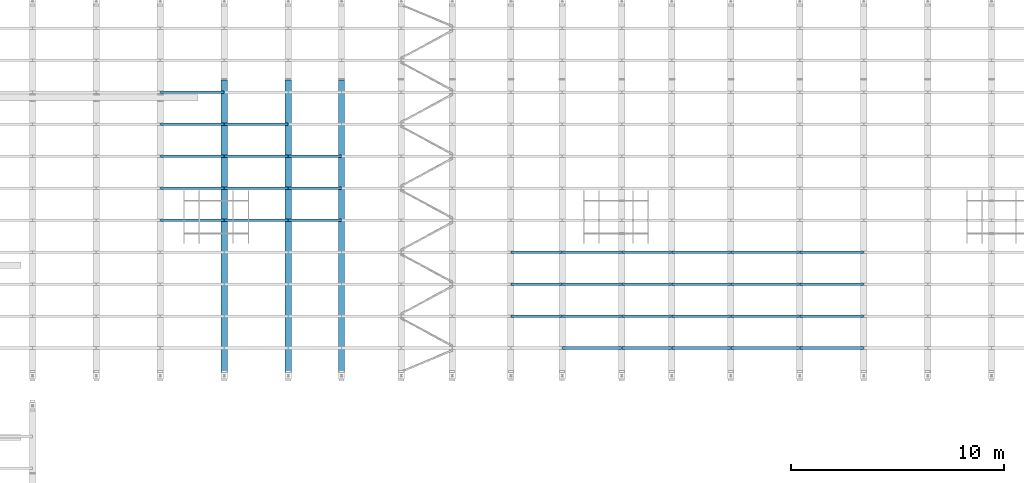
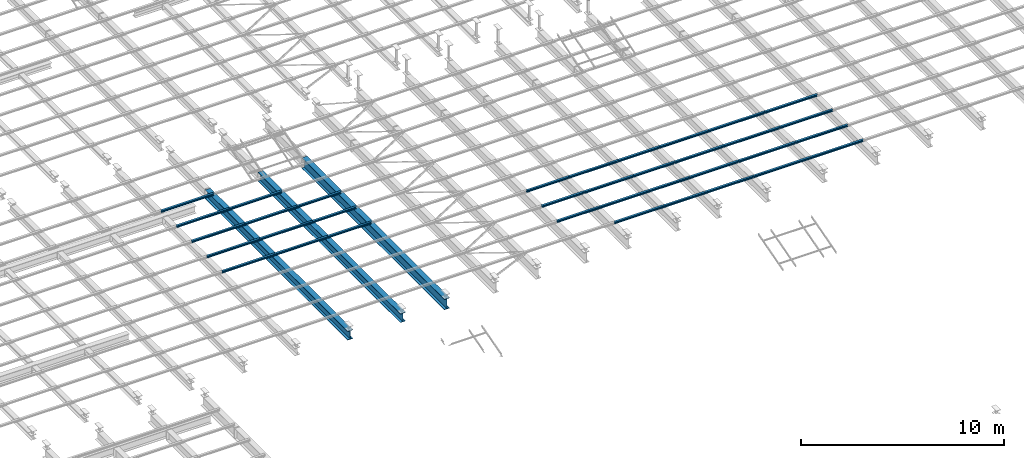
# One storey, part 71 of 139: 38 beams.
"""IFC2X3 building model written with IfcOpenShell, lengths in metres."""

from ifc_helpers import new_model, entity, si_unit, converted_unit, derived_unit, frame, origin, place, context, subcontext, project, spatial, polyline, outline, extrude, material, element, save


model = new_model("IFC2X3")

# Units and contexts
model_context = context("Model", 3, precision=1e-05, world=origin())
body_context = subcontext(model_context, "Body", "Model", "MODEL_VIEW")
ifc_project = project(units=[si_unit("LENGTHUNIT", "METRE"), si_unit("AREAUNIT", "SQUARE_METRE"), si_unit("VOLUMEUNIT", "CUBIC_METRE"), si_unit("MASSUNIT", "GRAM", prefix="KILO"), converted_unit("PLANEANGLEUNIT", "DEGREE", entity("IfcPlaneAngleMeasure", 0.0174532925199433), si_unit("PLANEANGLEUNIT", "RADIAN"), dimensions=[0, 0, 0, 0, 0, 0, 0]), derived_unit("THERMALTRANSMITTANCEUNIT", [(si_unit("POWERUNIT", "WATT"), 1), (si_unit("THERMODYNAMICTEMPERATUREUNIT", "KELVIN"), -1), (si_unit("LENGTHUNIT", "METRE"), -2)]), derived_unit("VOLUMETRICFLOWRATEUNIT", [(si_unit("LENGTHUNIT", "METRE"), 3), (converted_unit("TIMEUNIT", "hour", entity("IfcTimeMeasure", 3600.0), si_unit("TIMEUNIT", "SECOND"), dimensions=[0, 0, 1, 0, 0, 0, 0]), -1), (si_unit("LENGTHUNIT", "METRE"), -1)])], contexts=[model_context])

# Site, building, storey
site_placement = place(None, origin())
site = spatial("IfcSite", under=ifc_project, at=site_placement, Name="TWP_Speiseverteilzentrum SBW VZ II", CompositionType="ELEMENT")
building_placement = place(site_placement, origin())
building = spatial("IfcBuilding", under=site, at=building_placement, Name="Speiseverteilzentrum SBW VZ II", CompositionType="ELEMENT")
storey_placement = place(building_placement, frame((0.0, 0.0, 7.1307)))
storey = spatial("IfcBuildingStorey", under=building, at=storey_placement, Name="Wartung_FFB", CompositionType="ELEMENT", Elevation=7.1307)

# Beams
ifc_material_1 = material(Name="S235")
beam_1_placement = place(storey_placement, frame((81.5500000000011, 66.1852526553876, -0.51), z_axis=(0.0, 0.0, 1.0), x_axis=(-1.0, 0.0, 0.0)))
element("IfcBeam", 1, at=beam_1_placement, inside=storey, material=ifc_material_1, Name="Stahlträger", context=body_context, shape_type="SweptSolid", body=[
    extrude(outline(polyline([(-0.15, 0.32), (-0.15, 0.294), (-0.00675000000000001, 0.294), (-0.00675000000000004, -0.294), (-0.15, -0.294), (-0.15, -0.32), (0.15, -0.32), (0.15, -0.294), (0.00674999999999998, -0.294), (0.00675000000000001, 0.294), (0.15, 0.294), (0.15, 0.32), (-0.15, 0.32)])), frame((0.0, 0.0, 0.0), z_axis=(0.0, 1.0, 0.0), x_axis=(-1.0, 0.0, 0.0)), (0.0, 0.0, 1.0), 14.0352526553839),
])
ifc_material_2 = material(Name="S235")
beam_2_placement = place(storey_placement, frame((76.0500000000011, 66.1852526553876, -0.46), z_axis=(0.0, 0.0, 1.0), x_axis=(-1.0, 0.0, 0.0)))
element("IfcBeam", 2, at=beam_2_placement, inside=storey, material=ifc_material_2, Name="Stahlträger", context=body_context, shape_type="SweptSolid", body=[
    extrude(outline(polyline([(-0.15, 0.27), (-0.15, 0.246), (-0.0062499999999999, 0.246), (-0.00624999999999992, -0.246), (-0.15, -0.246), (-0.15, -0.27), (0.15, -0.27), (0.15, -0.246), (0.00625000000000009, -0.246), (0.00625000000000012, 0.246), (0.15, 0.246), (0.15, 0.27), (-0.15, 0.27)])), frame((0.0, 0.0, 0.0), z_axis=(0.0, 1.0, 0.0), x_axis=(-1.0, 0.0, 0.0)), (0.0, 0.0, 1.0), 14.0352526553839),
])
ifc_material_3 = material(Name="S235")
beam_3_placement = place(storey_placement, frame((79.0500000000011, 66.1852526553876, -0.46), z_axis=(0.0, 0.0, 1.0), x_axis=(-1.0, 0.0, 0.0)))
element("IfcBeam", 3, at=beam_3_placement, inside=storey, material=ifc_material_3, Name="Stahlträger", context=body_context, shape_type="SweptSolid", body=[
    extrude(outline(polyline([(-0.15, 0.27), (-0.15, 0.246), (-0.0062499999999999, 0.246), (-0.00624999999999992, -0.246), (-0.15, -0.246), (-0.15, -0.27), (0.15, -0.27), (0.15, -0.246), (0.00625000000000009, -0.246), (0.00625000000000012, 0.246), (0.15, 0.246), (0.15, 0.27), (-0.15, 0.27)])), frame((0.0, 0.0, 0.0), z_axis=(0.0, 1.0, 0.0), x_axis=(-1.0, 0.0, 0.0)), (0.0, 0.0, 1.0), 14.0352526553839),
])
ifc_material_4 = material(Name="S235")
beam_4_placement = place(storey_placement, frame((73.0600000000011, 65.6011263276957, -0.133), z_axis=(0.0, 0.0, 1.0), x_axis=(0.0, -1.0, 0.0)))
element("IfcBeam", 4, at=beam_4_placement, inside=storey, material=ifc_material_4, Name="Nebenträger", context=body_context, shape_type="SweptSolid", body=[
    extrude(outline(polyline([(-0.06, 0.0570000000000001), (-0.06, 0.0490000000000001), (-0.00249999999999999, 0.0490000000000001), (-0.0025, -0.0489999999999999), (-0.06, -0.0489999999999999), (-0.06, -0.0569999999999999), (0.06, -0.0569999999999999), (0.06, -0.0489999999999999), (0.0025, -0.0489999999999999), (0.00250000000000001, 0.0490000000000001), (0.06, 0.0490000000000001), (0.06, 0.0570000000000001), (-0.06, 0.0570000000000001)])), frame((0.0, 0.0, 0.0), z_axis=(0.0, 1.0, 0.0), x_axis=(-1.0, 0.0, 0.0)), (0.0, 0.0, 1.0), 2.98),
])
ifc_material_5 = material(Name="S235")
beam_5_placement = place(storey_placement, frame((73.0600000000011, 64.1011263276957, -0.133), z_axis=(0.0, 0.0, 1.0), x_axis=(0.0, -1.0, 0.0)))
element("IfcBeam", 5, at=beam_5_placement, inside=storey, material=ifc_material_5, Name="Nebenträger", context=body_context, shape_type="SweptSolid", body=[
    extrude(outline(polyline([(-0.06, 0.0570000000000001), (-0.06, 0.0490000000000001), (-0.00249999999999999, 0.0490000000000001), (-0.0025, -0.0489999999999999), (-0.06, -0.0489999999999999), (-0.06, -0.0569999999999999), (0.06, -0.0569999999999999), (0.06, -0.0489999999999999), (0.0025, -0.0489999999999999), (0.00250000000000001, 0.0490000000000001), (0.06, 0.0490000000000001), (0.06, 0.0570000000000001), (-0.06, 0.0570000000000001)])), frame((0.0, 0.0, 0.0), z_axis=(0.0, 1.0, 0.0), x_axis=(-1.0, 0.0, 0.0)), (0.0, 0.0, 1.0), 2.98),
])
ifc_material_6 = material(Name="S235")
beam_6_placement = place(storey_placement, frame((76.0600000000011, 64.1011263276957, -0.133), z_axis=(0.0, 0.0, 1.0), x_axis=(0.0, -1.0, 0.0)))
element("IfcBeam", 6, at=beam_6_placement, inside=storey, material=ifc_material_6, Name="Nebenträger", context=body_context, shape_type="SweptSolid", body=[
    extrude(outline(polyline([(-0.06, 0.0570000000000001), (-0.06, 0.0490000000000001), (-0.00249999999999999, 0.0490000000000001), (-0.0025, -0.0489999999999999), (-0.06, -0.0489999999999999), (-0.06, -0.0569999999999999), (0.06, -0.0569999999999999), (0.06, -0.0489999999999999), (0.0025, -0.0489999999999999), (0.00250000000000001, 0.0490000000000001), (0.06, 0.0490000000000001), (0.06, 0.0570000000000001), (-0.06, 0.0570000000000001)])), frame((0.0, 0.0, 0.0), z_axis=(0.0, 1.0, 0.0), x_axis=(-1.0, 0.0, 0.0)), (0.0, 0.0, 1.0), 2.98),
])
ifc_material_7 = material(Name="S235")
beam_7_placement = place(storey_placement, frame((73.0600000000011, 62.6011263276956, -0.133), z_axis=(0.0, 0.0, 1.0), x_axis=(0.0, -1.0, 0.0)))
element("IfcBeam", 7, at=beam_7_placement, inside=storey, material=ifc_material_7, Name="Nebenträger", context=body_context, shape_type="SweptSolid", body=[
    extrude(outline(polyline([(-0.06, 0.0570000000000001), (-0.06, 0.0490000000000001), (-0.00249999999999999, 0.0490000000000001), (-0.0025, -0.0489999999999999), (-0.06, -0.0489999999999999), (-0.06, -0.0569999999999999), (0.06, -0.0569999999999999), (0.06, -0.0489999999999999), (0.0025, -0.0489999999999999), (0.00250000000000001, 0.0490000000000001), (0.06, 0.0490000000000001), (0.06, 0.0570000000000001), (-0.06, 0.0570000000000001)])), frame((0.0, 0.0, 0.0), z_axis=(0.0, 1.0, 0.0), x_axis=(-1.0, 0.0, 0.0)), (0.0, 0.0, 1.0), 2.98),
])
ifc_material_8 = material(Name="S235")
beam_8_placement = place(storey_placement, frame((76.0600000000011, 62.6011263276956, -0.133), z_axis=(0.0, 0.0, 1.0), x_axis=(0.0, -1.0, 0.0)))
element("IfcBeam", 8, at=beam_8_placement, inside=storey, material=ifc_material_8, Name="Nebenträger", context=body_context, shape_type="SweptSolid", body=[
    extrude(outline(polyline([(-0.06, 0.0570000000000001), (-0.06, 0.0490000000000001), (-0.00249999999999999, 0.0490000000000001), (-0.0025, -0.0489999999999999), (-0.06, -0.0489999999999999), (-0.06, -0.0569999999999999), (0.06, -0.0569999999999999), (0.06, -0.0489999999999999), (0.0025, -0.0489999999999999), (0.00250000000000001, 0.0490000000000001), (0.06, 0.0490000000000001), (0.06, 0.0570000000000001), (-0.06, 0.0570000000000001)])), frame((0.0, 0.0, 0.0), z_axis=(0.0, 1.0, 0.0), x_axis=(-1.0, 0.0, 0.0)), (0.0, 0.0, 1.0), 2.98),
])
ifc_material_9 = material(Name="S235")
beam_9_placement = place(storey_placement, frame((73.0600000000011, 61.1011263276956, -0.133), z_axis=(0.0, 0.0, 1.0), x_axis=(0.0, -1.0, 0.0)))
element("IfcBeam", 9, at=beam_9_placement, inside=storey, material=ifc_material_9, Name="Nebenträger", context=body_context, shape_type="SweptSolid", body=[
    extrude(outline(polyline([(-0.06, 0.0570000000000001), (-0.06, 0.0490000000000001), (-0.00249999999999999, 0.0490000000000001), (-0.0025, -0.0489999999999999), (-0.06, -0.0489999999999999), (-0.06, -0.0569999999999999), (0.06, -0.0569999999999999), (0.06, -0.0489999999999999), (0.0025, -0.0489999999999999), (0.00250000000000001, 0.0490000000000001), (0.06, 0.0490000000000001), (0.06, 0.0570000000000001), (-0.06, 0.0570000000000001)])), frame((0.0, 0.0, 0.0), z_axis=(0.0, 1.0, 0.0), x_axis=(-1.0, 0.0, 0.0)), (0.0, 0.0, 1.0), 2.98),
])
ifc_material_10 = material(Name="S235")
beam_10_placement = place(storey_placement, frame((76.0600000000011, 61.1011263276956, -0.133), z_axis=(0.0, 0.0, 1.0), x_axis=(0.0, -1.0, 0.0)))
element("IfcBeam", 10, at=beam_10_placement, inside=storey, material=ifc_material_10, Name="Nebenträger", context=body_context, shape_type="SweptSolid", body=[
    extrude(outline(polyline([(-0.06, 0.0570000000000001), (-0.06, 0.0490000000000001), (-0.00249999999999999, 0.0490000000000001), (-0.0025, -0.0489999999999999), (-0.06, -0.0489999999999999), (-0.06, -0.0569999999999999), (0.06, -0.0569999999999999), (0.06, -0.0489999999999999), (0.0025, -0.0489999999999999), (0.00250000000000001, 0.0490000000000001), (0.06, 0.0490000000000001), (0.06, 0.0570000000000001), (-0.06, 0.0570000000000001)])), frame((0.0, 0.0, 0.0), z_axis=(0.0, 1.0, 0.0), x_axis=(-1.0, 0.0, 0.0)), (0.0, 0.0, 1.0), 2.98),
])
ifc_material_11 = material(Name="S235")
beam_11_placement = place(storey_placement, frame((73.0600000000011, 59.6011263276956, -0.133), z_axis=(0.0, 0.0, 1.0), x_axis=(0.0, -1.0, 0.0)))
element("IfcBeam", 11, at=beam_11_placement, inside=storey, material=ifc_material_11, Name="Nebenträger", context=body_context, shape_type="SweptSolid", body=[
    extrude(outline(polyline([(-0.06, 0.0570000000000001), (-0.06, 0.0490000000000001), (-0.00249999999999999, 0.0490000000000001), (-0.0025, -0.0489999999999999), (-0.06, -0.0489999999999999), (-0.06, -0.0569999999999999), (0.06, -0.0569999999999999), (0.06, -0.0489999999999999), (0.0025, -0.0489999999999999), (0.00250000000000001, 0.0490000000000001), (0.06, 0.0490000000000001), (0.06, 0.0570000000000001), (-0.06, 0.0570000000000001)])), frame((0.0, 0.0, 0.0), z_axis=(0.0, 1.0, 0.0), x_axis=(-1.0, 0.0, 0.0)), (0.0, 0.0, 1.0), 2.98),
])
ifc_material_12 = material(Name="S235")
beam_12_placement = place(storey_placement, frame((76.0600000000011, 59.6011263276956, -0.133), z_axis=(0.0, 0.0, 1.0), x_axis=(0.0, -1.0, 0.0)))
element("IfcBeam", 12, at=beam_12_placement, inside=storey, material=ifc_material_12, Name="Nebenträger", context=body_context, shape_type="SweptSolid", body=[
    extrude(outline(polyline([(-0.06, 0.0570000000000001), (-0.06, 0.0490000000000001), (-0.00249999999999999, 0.0490000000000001), (-0.0025, -0.0489999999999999), (-0.06, -0.0489999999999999), (-0.06, -0.0569999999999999), (0.06, -0.0569999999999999), (0.06, -0.0489999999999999), (0.0025, -0.0489999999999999), (0.00250000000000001, 0.0490000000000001), (0.06, 0.0490000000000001), (0.06, 0.0570000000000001), (-0.06, 0.0570000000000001)])), frame((0.0, 0.0, 0.0), z_axis=(0.0, 1.0, 0.0), x_axis=(-1.0, 0.0, 0.0)), (0.0, 0.0, 1.0), 2.98),
])
ifc_material_13 = material(Name="S235")
beam_13_placement = place(storey_placement, frame((103.060000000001, 58.1011263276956, -0.133), z_axis=(0.0, 0.0, 1.0), x_axis=(0.0, -1.0, 0.0)))
element("IfcBeam", 13, at=beam_13_placement, inside=storey, material=ifc_material_13, Name="Nebenträger", context=body_context, shape_type="SweptSolid", body=[
    extrude(outline(polyline([(-0.06, 0.0570000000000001), (-0.06, 0.0490000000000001), (-0.00249999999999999, 0.0490000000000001), (-0.0025, -0.0489999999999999), (-0.06, -0.0489999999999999), (-0.06, -0.0569999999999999), (0.06, -0.0569999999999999), (0.06, -0.0489999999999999), (0.0025, -0.0489999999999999), (0.00250000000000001, 0.0490000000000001), (0.06, 0.0490000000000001), (0.06, 0.0570000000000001), (-0.06, 0.0570000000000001)])), frame((0.0, 0.0, 0.0), z_axis=(0.0, 1.0, 0.0), x_axis=(-1.0, 0.0, 0.0)), (0.0, 0.0, 1.0), 2.98),
])
ifc_material_14 = material(Name="S235")
beam_14_placement = place(storey_placement, frame((103.060000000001, 56.6011263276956, -0.133), z_axis=(0.0, 0.0, 1.0), x_axis=(0.0, -1.0, 0.0)))
element("IfcBeam", 14, at=beam_14_placement, inside=storey, material=ifc_material_14, Name="Nebenträger", context=body_context, shape_type="SweptSolid", body=[
    extrude(outline(polyline([(-0.06, 0.0570000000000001), (-0.06, 0.0490000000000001), (-0.00249999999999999, 0.0490000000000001), (-0.0025, -0.0489999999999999), (-0.06, -0.0489999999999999), (-0.06, -0.0569999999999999), (0.06, -0.0569999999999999), (0.06, -0.0489999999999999), (0.0025, -0.0489999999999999), (0.00250000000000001, 0.0490000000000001), (0.06, 0.0490000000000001), (0.06, 0.0570000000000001), (-0.06, 0.0570000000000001)])), frame((0.0, 0.0, 0.0), z_axis=(0.0, 1.0, 0.0), x_axis=(-1.0, 0.0, 0.0)), (0.0, 0.0, 1.0), 2.98),
])
ifc_material_15 = material(Name="S235")
beam_15_placement = place(storey_placement, frame((103.060000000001, 55.1011263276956, -0.133), z_axis=(0.0, 0.0, 1.0), x_axis=(0.0, -1.0, 0.0)))
element("IfcBeam", 15, at=beam_15_placement, inside=storey, material=ifc_material_15, Name="Nebenträger", context=body_context, shape_type="SweptSolid", body=[
    extrude(outline(polyline([(-0.06, 0.0570000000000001), (-0.06, 0.0490000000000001), (-0.00249999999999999, 0.0490000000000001), (-0.0025, -0.0489999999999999), (-0.06, -0.0489999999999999), (-0.06, -0.0569999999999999), (0.06, -0.0569999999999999), (0.06, -0.0489999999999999), (0.0025, -0.0489999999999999), (0.00250000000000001, 0.0490000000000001), (0.06, 0.0490000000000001), (0.06, 0.0570000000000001), (-0.06, 0.0570000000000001)])), frame((0.0, 0.0, 0.0), z_axis=(0.0, 1.0, 0.0), x_axis=(-1.0, 0.0, 0.0)), (0.0, 0.0, 1.0), 2.98),
])
ifc_material_16 = material(Name="S235")
beam_16_placement = place(storey_placement, frame((103.060000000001, 53.6011263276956, -0.133), z_axis=(0.0, 0.0, 1.0), x_axis=(0.0, -1.0, 0.0)))
element("IfcBeam", 16, at=beam_16_placement, inside=storey, material=ifc_material_16, Name="Nebenträger", context=body_context, shape_type="SweptSolid", body=[
    extrude(outline(polyline([(-0.06, 0.0570000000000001), (-0.06, 0.0490000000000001), (-0.00249999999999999, 0.0490000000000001), (-0.0025, -0.0489999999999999), (-0.06, -0.0489999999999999), (-0.06, -0.0569999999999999), (0.06, -0.0569999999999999), (0.06, -0.0489999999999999), (0.0025, -0.0489999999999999), (0.00250000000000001, 0.0490000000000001), (0.06, 0.0490000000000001), (0.06, 0.0570000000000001), (-0.06, 0.0570000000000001)])), frame((0.0, 0.0, 0.0), z_axis=(0.0, 1.0, 0.0), x_axis=(-1.0, 0.0, 0.0)), (0.0, 0.0, 1.0), 2.98),
])
ifc_material_17 = material(Name="S235")
beam_17_placement = place(storey_placement, frame((79.0600000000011, 62.6011263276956, -0.133), z_axis=(0.0, 0.0, 1.0), x_axis=(0.0, -1.0, 0.0)))
element("IfcBeam", 17, at=beam_17_placement, inside=storey, material=ifc_material_17, Name="Nebenträger", context=body_context, shape_type="SweptSolid", body=[
    extrude(outline(polyline([(-0.06, 0.0570000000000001), (-0.06, 0.0490000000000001), (-0.00249999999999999, 0.0490000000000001), (-0.0025, -0.0489999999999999), (-0.06, -0.0489999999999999), (-0.06, -0.0569999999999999), (0.06, -0.0569999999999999), (0.06, -0.0489999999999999), (0.0025, -0.0489999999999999), (0.00250000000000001, 0.0490000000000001), (0.06, 0.0490000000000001), (0.06, 0.0570000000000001), (-0.06, 0.0570000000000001)])), frame((0.0, 0.0, 0.0), z_axis=(0.0, 1.0, 0.0), x_axis=(-1.0, 0.0, 0.0)), (0.0, 0.0, 1.0), 2.48),
])
ifc_material_18 = material(Name="S235")
beam_18_placement = place(storey_placement, frame((79.0600000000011, 61.1011263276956, -0.133), z_axis=(0.0, 0.0, 1.0), x_axis=(0.0, -1.0, 0.0)))
element("IfcBeam", 18, at=beam_18_placement, inside=storey, material=ifc_material_18, Name="Nebenträger", context=body_context, shape_type="SweptSolid", body=[
    extrude(outline(polyline([(-0.06, 0.0570000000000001), (-0.06, 0.0490000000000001), (-0.00249999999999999, 0.0490000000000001), (-0.0025, -0.0489999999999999), (-0.06, -0.0489999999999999), (-0.06, -0.0569999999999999), (0.06, -0.0569999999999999), (0.06, -0.0489999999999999), (0.0025, -0.0489999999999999), (0.00250000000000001, 0.0490000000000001), (0.06, 0.0490000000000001), (0.06, 0.0570000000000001), (-0.06, 0.0570000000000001)])), frame((0.0, 0.0, 0.0), z_axis=(0.0, 1.0, 0.0), x_axis=(-1.0, 0.0, 0.0)), (0.0, 0.0, 1.0), 2.48),
])
ifc_material_19 = material(Name="S235")
beam_19_placement = place(storey_placement, frame((79.0600000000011, 59.6011263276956, -0.133), z_axis=(0.0, 0.0, 1.0), x_axis=(0.0, -1.0, 0.0)))
element("IfcBeam", 19, at=beam_19_placement, inside=storey, material=ifc_material_19, Name="Nebenträger", context=body_context, shape_type="SweptSolid", body=[
    extrude(outline(polyline([(-0.06, 0.0570000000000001), (-0.06, 0.0490000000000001), (-0.00249999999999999, 0.0490000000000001), (-0.0025, -0.0489999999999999), (-0.06, -0.0489999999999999), (-0.06, -0.0569999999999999), (0.06, -0.0569999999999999), (0.06, -0.0489999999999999), (0.0025, -0.0489999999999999), (0.00250000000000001, 0.0490000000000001), (0.06, 0.0490000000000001), (0.06, 0.0570000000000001), (-0.06, 0.0570000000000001)])), frame((0.0, 0.0, 0.0), z_axis=(0.0, 1.0, 0.0), x_axis=(-1.0, 0.0, 0.0)), (0.0, 0.0, 1.0), 2.48),
])
ifc_material_20 = material(Name="S235")
beam_20_placement = place(storey_placement, frame((89.5100000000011, 58.1011263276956, -0.133), z_axis=(0.0, 0.0, 1.0), x_axis=(0.0, -1.0, 0.0)))
element("IfcBeam", 20, at=beam_20_placement, inside=storey, material=ifc_material_20, Name="Nebenträger", context=body_context, shape_type="SweptSolid", body=[
    extrude(outline(polyline([(-0.06, 0.0570000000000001), (-0.06, 0.0490000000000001), (-0.00249999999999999, 0.0490000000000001), (-0.0025, -0.0489999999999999), (-0.06, -0.0489999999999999), (-0.06, -0.0569999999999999), (0.06, -0.0569999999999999), (0.06, -0.0489999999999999), (0.0025, -0.0489999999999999), (0.00250000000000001, 0.0490000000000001), (0.06, 0.0490000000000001), (0.06, 0.0570000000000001), (-0.06, 0.0570000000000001)])), frame((0.0, 0.0, 0.0), z_axis=(0.0, 1.0, 0.0), x_axis=(-1.0, 0.0, 0.0)), (0.0, 0.0, 1.0), 2.38),
])
ifc_material_21 = material(Name="S235")
beam_21_placement = place(storey_placement, frame((89.5100000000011, 56.6011263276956, -0.133), z_axis=(0.0, 0.0, 1.0), x_axis=(0.0, -1.0, 0.0)))
element("IfcBeam", 21, at=beam_21_placement, inside=storey, material=ifc_material_21, Name="Nebenträger", context=body_context, shape_type="SweptSolid", body=[
    extrude(outline(polyline([(-0.06, 0.0570000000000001), (-0.06, 0.0490000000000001), (-0.00249999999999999, 0.0490000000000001), (-0.0025, -0.0489999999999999), (-0.06, -0.0489999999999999), (-0.06, -0.0569999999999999), (0.06, -0.0569999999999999), (0.06, -0.0489999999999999), (0.0025, -0.0489999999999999), (0.00250000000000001, 0.0490000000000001), (0.06, 0.0490000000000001), (0.06, 0.0570000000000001), (-0.06, 0.0570000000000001)])), frame((0.0, 0.0, 0.0), z_axis=(0.0, 1.0, 0.0), x_axis=(-1.0, 0.0, 0.0)), (0.0, 0.0, 1.0), 2.38),
])
ifc_material_22 = material(Name="S235")
beam_22_placement = place(storey_placement, frame((89.5100000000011, 55.1011263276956, -0.133), z_axis=(0.0, 0.0, 1.0), x_axis=(0.0, -1.0, 0.0)))
element("IfcBeam", 22, at=beam_22_placement, inside=storey, material=ifc_material_22, Name="Nebenträger", context=body_context, shape_type="SweptSolid", body=[
    extrude(outline(polyline([(-0.06, 0.0570000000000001), (-0.06, 0.0490000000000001), (-0.00249999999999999, 0.0490000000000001), (-0.0025, -0.0489999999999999), (-0.06, -0.0489999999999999), (-0.06, -0.0569999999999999), (0.06, -0.0569999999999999), (0.06, -0.0489999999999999), (0.0025, -0.0489999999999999), (0.00250000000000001, 0.0490000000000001), (0.06, 0.0490000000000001), (0.06, 0.0570000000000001), (-0.06, 0.0570000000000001)])), frame((0.0, 0.0, 0.0), z_axis=(0.0, 1.0, 0.0), x_axis=(-1.0, 0.0, 0.0)), (0.0, 0.0, 1.0), 2.38),
])
ifc_material_23 = material(Name="S235")
beam_23_placement = place(storey_placement, frame((94.7100000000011, 58.1011263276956, -0.133), z_axis=(0.0, 0.0, 1.0), x_axis=(0.0, -1.0, 0.0)))
element("IfcBeam", 23, at=beam_23_placement, inside=storey, material=ifc_material_23, Name="Nebenträger", context=body_context, shape_type="SweptSolid", body=[
    extrude(outline(polyline([(-0.06, 0.0570000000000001), (-0.06, 0.0490000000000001), (-0.00249999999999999, 0.0490000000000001), (-0.0025, -0.0489999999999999), (-0.06, -0.0489999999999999), (-0.06, -0.0569999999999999), (0.06, -0.0569999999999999), (0.06, -0.0489999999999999), (0.0025, -0.0489999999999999), (0.00250000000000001, 0.0490000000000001), (0.06, 0.0490000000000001), (0.06, 0.0570000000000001), (-0.06, 0.0570000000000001)])), frame((0.0, 0.0, 0.0), z_axis=(0.0, 1.0, 0.0), x_axis=(-1.0, 0.0, 0.0)), (0.0, 0.0, 1.0), 2.33),
])
ifc_material_24 = material(Name="S235")
beam_24_placement = place(storey_placement, frame((94.7100000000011, 56.6011263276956, -0.133), z_axis=(0.0, 0.0, 1.0), x_axis=(0.0, -1.0, 0.0)))
element("IfcBeam", 24, at=beam_24_placement, inside=storey, material=ifc_material_24, Name="Nebenträger", context=body_context, shape_type="SweptSolid", body=[
    extrude(outline(polyline([(-0.06, 0.0570000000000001), (-0.06, 0.0490000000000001), (-0.00249999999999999, 0.0490000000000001), (-0.0025, -0.0489999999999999), (-0.06, -0.0489999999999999), (-0.06, -0.0569999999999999), (0.06, -0.0569999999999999), (0.06, -0.0489999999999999), (0.0025, -0.0489999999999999), (0.00250000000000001, 0.0490000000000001), (0.06, 0.0490000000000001), (0.06, 0.0570000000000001), (-0.06, 0.0570000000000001)])), frame((0.0, 0.0, 0.0), z_axis=(0.0, 1.0, 0.0), x_axis=(-1.0, 0.0, 0.0)), (0.0, 0.0, 1.0), 2.33),
])
ifc_material_25 = material(Name="S235")
beam_25_placement = place(storey_placement, frame((94.7100000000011, 55.1011263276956, -0.133), z_axis=(0.0, 0.0, 1.0), x_axis=(0.0, -1.0, 0.0)))
element("IfcBeam", 25, at=beam_25_placement, inside=storey, material=ifc_material_25, Name="Nebenträger", context=body_context, shape_type="SweptSolid", body=[
    extrude(outline(polyline([(-0.06, 0.0570000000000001), (-0.06, 0.0490000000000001), (-0.00249999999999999, 0.0490000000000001), (-0.0025, -0.0489999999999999), (-0.06, -0.0489999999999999), (-0.06, -0.0569999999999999), (0.06, -0.0569999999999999), (0.06, -0.0489999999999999), (0.0025, -0.0489999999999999), (0.00250000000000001, 0.0490000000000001), (0.06, 0.0490000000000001), (0.06, 0.0570000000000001), (-0.06, 0.0570000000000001)])), frame((0.0, 0.0, 0.0), z_axis=(0.0, 1.0, 0.0), x_axis=(-1.0, 0.0, 0.0)), (0.0, 0.0, 1.0), 2.33),
])
ifc_material_26 = material(Name="S235")
beam_26_placement = place(storey_placement, frame((94.7100000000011, 53.6011263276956, -0.133), z_axis=(0.0, 0.0, 1.0), x_axis=(0.0, -1.0, 0.0)))
element("IfcBeam", 26, at=beam_26_placement, inside=storey, material=ifc_material_26, Name="Nebenträger", context=body_context, shape_type="SweptSolid", body=[
    extrude(outline(polyline([(-0.06, 0.0570000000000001), (-0.06, 0.0490000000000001), (-0.00249999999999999, 0.0490000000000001), (-0.0025, -0.0489999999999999), (-0.06, -0.0489999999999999), (-0.06, -0.0569999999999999), (0.06, -0.0569999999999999), (0.06, -0.0489999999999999), (0.0025, -0.0489999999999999), (0.00250000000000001, 0.0490000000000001), (0.06, 0.0490000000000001), (0.06, 0.0570000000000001), (-0.06, 0.0570000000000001)])), frame((0.0, 0.0, 0.0), z_axis=(0.0, 1.0, 0.0), x_axis=(-1.0, 0.0, 0.0)), (0.0, 0.0, 1.0), 2.33),
])
ifc_material_27 = material(Name="S235")
beam_27_placement = place(storey_placement, frame((91.9100000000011, 58.1011263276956, -0.133), z_axis=(0.0, 0.0, 1.0), x_axis=(0.0, -1.0, 0.0)))
element("IfcBeam", 27, at=beam_27_placement, inside=storey, material=ifc_material_27, Name="Nebenträger", context=body_context, shape_type="SweptSolid", body=[
    extrude(outline(polyline([(-0.06, 0.0570000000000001), (-0.06, 0.0490000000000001), (-0.00249999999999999, 0.0490000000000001), (-0.0025, -0.0489999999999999), (-0.06, -0.0489999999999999), (-0.06, -0.0569999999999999), (0.06, -0.0569999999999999), (0.06, -0.0489999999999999), (0.0025, -0.0489999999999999), (0.00250000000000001, 0.0490000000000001), (0.06, 0.0490000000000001), (0.06, 0.0570000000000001), (-0.06, 0.0570000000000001)])), frame((0.0, 0.0, 0.0), z_axis=(0.0, 1.0, 0.0), x_axis=(-1.0, 0.0, 0.0)), (0.0, 0.0, 1.0), 2.78),
])
ifc_material_28 = material(Name="S235")
beam_28_placement = place(storey_placement, frame((91.9100000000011, 56.6011263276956, -0.133), z_axis=(0.0, 0.0, 1.0), x_axis=(0.0, -1.0, 0.0)))
element("IfcBeam", 28, at=beam_28_placement, inside=storey, material=ifc_material_28, Name="Nebenträger", context=body_context, shape_type="SweptSolid", body=[
    extrude(outline(polyline([(-0.06, 0.0570000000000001), (-0.06, 0.0490000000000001), (-0.00249999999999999, 0.0490000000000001), (-0.0025, -0.0489999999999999), (-0.06, -0.0489999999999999), (-0.06, -0.0569999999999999), (0.06, -0.0569999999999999), (0.06, -0.0489999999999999), (0.0025, -0.0489999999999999), (0.00250000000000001, 0.0490000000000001), (0.06, 0.0490000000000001), (0.06, 0.0570000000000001), (-0.06, 0.0570000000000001)])), frame((0.0, 0.0, 0.0), z_axis=(0.0, 1.0, 0.0), x_axis=(-1.0, 0.0, 0.0)), (0.0, 0.0, 1.0), 2.78),
])
ifc_material_29 = material(Name="S235")
beam_29_placement = place(storey_placement, frame((91.9100000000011, 55.1011263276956, -0.133), z_axis=(0.0, 0.0, 1.0), x_axis=(0.0, -1.0, 0.0)))
element("IfcBeam", 29, at=beam_29_placement, inside=storey, material=ifc_material_29, Name="Nebenträger", context=body_context, shape_type="SweptSolid", body=[
    extrude(outline(polyline([(-0.06, 0.0570000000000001), (-0.06, 0.0490000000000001), (-0.00249999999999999, 0.0490000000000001), (-0.0025, -0.0489999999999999), (-0.06, -0.0489999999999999), (-0.06, -0.0569999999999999), (0.06, -0.0569999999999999), (0.06, -0.0489999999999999), (0.0025, -0.0489999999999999), (0.00250000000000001, 0.0490000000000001), (0.06, 0.0490000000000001), (0.06, 0.0570000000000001), (-0.06, 0.0570000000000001)])), frame((0.0, 0.0, 0.0), z_axis=(0.0, 1.0, 0.0), x_axis=(-1.0, 0.0, 0.0)), (0.0, 0.0, 1.0), 2.78),
])
ifc_material_30 = material(Name="S235")
beam_30_placement = place(storey_placement, frame((91.9100000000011, 53.6011263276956, -0.133), z_axis=(0.0, 0.0, 1.0), x_axis=(0.0, -1.0, 0.0)))
element("IfcBeam", 30, at=beam_30_placement, inside=storey, material=ifc_material_30, Name="Nebenträger", context=body_context, shape_type="SweptSolid", body=[
    extrude(outline(polyline([(-0.06, 0.0570000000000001), (-0.06, 0.0490000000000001), (-0.00249999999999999, 0.0490000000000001), (-0.0025, -0.0489999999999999), (-0.06, -0.0489999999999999), (-0.06, -0.0569999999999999), (0.06, -0.0569999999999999), (0.06, -0.0489999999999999), (0.0025, -0.0489999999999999), (0.00250000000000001, 0.0490000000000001), (0.06, 0.0490000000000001), (0.06, 0.0570000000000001), (-0.06, 0.0570000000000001)])), frame((0.0, 0.0, 0.0), z_axis=(0.0, 1.0, 0.0), x_axis=(-1.0, 0.0, 0.0)), (0.0, 0.0, 1.0), 2.78),
])
ifc_material_31 = material(Name="S235")
beam_31_placement = place(storey_placement, frame((97.0600000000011, 58.1011263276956, -0.133), z_axis=(0.0, 0.0, 1.0), x_axis=(0.0, -1.0, 0.0)))
element("IfcBeam", 31, at=beam_31_placement, inside=storey, material=ifc_material_31, Name="Nebenträger", context=body_context, shape_type="SweptSolid", body=[
    extrude(outline(polyline([(-0.06, 0.0570000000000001), (-0.06, 0.0490000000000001), (-0.00249999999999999, 0.0490000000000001), (-0.0025, -0.0489999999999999), (-0.06, -0.0489999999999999), (-0.06, -0.0569999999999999), (0.06, -0.0569999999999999), (0.06, -0.0489999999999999), (0.0025, -0.0489999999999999), (0.00250000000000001, 0.0490000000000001), (0.06, 0.0490000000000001), (0.06, 0.0570000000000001), (-0.06, 0.0570000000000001)])), frame((0.0, 0.0, 0.0), z_axis=(0.0, 1.0, 0.0), x_axis=(-1.0, 0.0, 0.0)), (0.0, 0.0, 1.0), 2.75),
])
ifc_material_32 = material(Name="S235")
beam_32_placement = place(storey_placement, frame((99.8300000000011, 58.1011263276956, -0.133), z_axis=(0.0, 0.0, 1.0), x_axis=(0.0, -1.0, 0.0)))
element("IfcBeam", 32, at=beam_32_placement, inside=storey, material=ifc_material_32, Name="Nebenträger", context=body_context, shape_type="SweptSolid", body=[
    extrude(outline(polyline([(-0.06, 0.0570000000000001), (-0.06, 0.0490000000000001), (-0.00249999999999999, 0.0490000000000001), (-0.0025, -0.0489999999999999), (-0.06, -0.0489999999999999), (-0.06, -0.0569999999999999), (0.06, -0.0569999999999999), (0.06, -0.0489999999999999), (0.0025, -0.0489999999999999), (0.00250000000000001, 0.0490000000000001), (0.06, 0.0490000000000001), (0.06, 0.0570000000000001), (-0.06, 0.0570000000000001)])), frame((0.0, 0.0, 0.0), z_axis=(0.0, 1.0, 0.0), x_axis=(-1.0, 0.0, 0.0)), (0.0, 0.0, 1.0), 3.21),
])
ifc_material_33 = material(Name="S235")
beam_33_placement = place(storey_placement, frame((97.0600000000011, 56.6011263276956, -0.133), z_axis=(0.0, 0.0, 1.0), x_axis=(0.0, -1.0, 0.0)))
element("IfcBeam", 33, at=beam_33_placement, inside=storey, material=ifc_material_33, Name="Nebenträger", context=body_context, shape_type="SweptSolid", body=[
    extrude(outline(polyline([(-0.06, 0.0570000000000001), (-0.06, 0.0490000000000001), (-0.00249999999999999, 0.0490000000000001), (-0.0025, -0.0489999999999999), (-0.06, -0.0489999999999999), (-0.06, -0.0569999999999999), (0.06, -0.0569999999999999), (0.06, -0.0489999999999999), (0.0025, -0.0489999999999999), (0.00250000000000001, 0.0490000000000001), (0.06, 0.0490000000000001), (0.06, 0.0570000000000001), (-0.06, 0.0570000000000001)])), frame((0.0, 0.0, 0.0), z_axis=(0.0, 1.0, 0.0), x_axis=(-1.0, 0.0, 0.0)), (0.0, 0.0, 1.0), 2.75),
])
ifc_material_34 = material(Name="S235")
beam_34_placement = place(storey_placement, frame((99.8300000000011, 56.6011263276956, -0.133), z_axis=(0.0, 0.0, 1.0), x_axis=(0.0, -1.0, 0.0)))
element("IfcBeam", 34, at=beam_34_placement, inside=storey, material=ifc_material_34, Name="Nebenträger", context=body_context, shape_type="SweptSolid", body=[
    extrude(outline(polyline([(-0.06, 0.0570000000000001), (-0.06, 0.0490000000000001), (-0.00249999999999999, 0.0490000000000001), (-0.0025, -0.0489999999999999), (-0.06, -0.0489999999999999), (-0.06, -0.0569999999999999), (0.06, -0.0569999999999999), (0.06, -0.0489999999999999), (0.0025, -0.0489999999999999), (0.00250000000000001, 0.0490000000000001), (0.06, 0.0490000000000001), (0.06, 0.0570000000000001), (-0.06, 0.0570000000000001)])), frame((0.0, 0.0, 0.0), z_axis=(0.0, 1.0, 0.0), x_axis=(-1.0, 0.0, 0.0)), (0.0, 0.0, 1.0), 3.21),
])
ifc_material_35 = material(Name="S235")
beam_35_placement = place(storey_placement, frame((97.0600000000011, 55.1011263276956, -0.133), z_axis=(0.0, 0.0, 1.0), x_axis=(0.0, -1.0, 0.0)))
element("IfcBeam", 35, at=beam_35_placement, inside=storey, material=ifc_material_35, Name="Nebenträger", context=body_context, shape_type="SweptSolid", body=[
    extrude(outline(polyline([(-0.06, 0.0570000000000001), (-0.06, 0.0490000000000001), (-0.00249999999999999, 0.0490000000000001), (-0.0025, -0.0489999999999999), (-0.06, -0.0489999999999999), (-0.06, -0.0569999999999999), (0.06, -0.0569999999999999), (0.06, -0.0489999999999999), (0.0025, -0.0489999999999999), (0.00250000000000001, 0.0490000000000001), (0.06, 0.0490000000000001), (0.06, 0.0570000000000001), (-0.06, 0.0570000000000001)])), frame((0.0, 0.0, 0.0), z_axis=(0.0, 1.0, 0.0), x_axis=(-1.0, 0.0, 0.0)), (0.0, 0.0, 1.0), 2.75),
])
ifc_material_36 = material(Name="S235")
beam_36_placement = place(storey_placement, frame((99.8300000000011, 55.1011263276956, -0.133), z_axis=(0.0, 0.0, 1.0), x_axis=(0.0, -1.0, 0.0)))
element("IfcBeam", 36, at=beam_36_placement, inside=storey, material=ifc_material_36, Name="Nebenträger", context=body_context, shape_type="SweptSolid", body=[
    extrude(outline(polyline([(-0.06, 0.0570000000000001), (-0.06, 0.0490000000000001), (-0.00249999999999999, 0.0490000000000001), (-0.0025, -0.0489999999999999), (-0.06, -0.0489999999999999), (-0.06, -0.0569999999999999), (0.06, -0.0569999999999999), (0.06, -0.0489999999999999), (0.0025, -0.0489999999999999), (0.00250000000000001, 0.0490000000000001), (0.06, 0.0490000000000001), (0.06, 0.0570000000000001), (-0.06, 0.0570000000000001)])), frame((0.0, 0.0, 0.0), z_axis=(0.0, 1.0, 0.0), x_axis=(-1.0, 0.0, 0.0)), (0.0, 0.0, 1.0), 3.21),
])
ifc_material_37 = material(Name="S235")
beam_37_placement = place(storey_placement, frame((97.0600000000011, 53.6011263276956, -0.133), z_axis=(0.0, 0.0, 1.0), x_axis=(0.0, -1.0, 0.0)))
element("IfcBeam", 37, at=beam_37_placement, inside=storey, material=ifc_material_37, Name="Nebenträger", context=body_context, shape_type="SweptSolid", body=[
    extrude(outline(polyline([(-0.06, 0.0570000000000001), (-0.06, 0.0490000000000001), (-0.00249999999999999, 0.0490000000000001), (-0.0025, -0.0489999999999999), (-0.06, -0.0489999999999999), (-0.06, -0.0569999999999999), (0.06, -0.0569999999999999), (0.06, -0.0489999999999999), (0.0025, -0.0489999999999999), (0.00250000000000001, 0.0490000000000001), (0.06, 0.0490000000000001), (0.06, 0.0570000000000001), (-0.06, 0.0570000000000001)])), frame((0.0, 0.0, 0.0), z_axis=(0.0, 1.0, 0.0), x_axis=(-1.0, 0.0, 0.0)), (0.0, 0.0, 1.0), 2.75),
])
ifc_material_38 = material(Name="S235")
beam_38_placement = place(storey_placement, frame((99.8300000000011, 53.6011263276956, -0.133), z_axis=(0.0, 0.0, 1.0), x_axis=(0.0, -1.0, 0.0)))
element("IfcBeam", 38, at=beam_38_placement, inside=storey, material=ifc_material_38, Name="Nebenträger", context=body_context, shape_type="SweptSolid", body=[
    extrude(outline(polyline([(-0.06, 0.0570000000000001), (-0.06, 0.0490000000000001), (-0.00249999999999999, 0.0490000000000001), (-0.0025, -0.0489999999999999), (-0.06, -0.0489999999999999), (-0.06, -0.0569999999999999), (0.06, -0.0569999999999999), (0.06, -0.0489999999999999), (0.0025, -0.0489999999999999), (0.00250000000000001, 0.0490000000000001), (0.06, 0.0490000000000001), (0.06, 0.0570000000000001), (-0.06, 0.0570000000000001)])), frame((0.0, 0.0, 0.0), z_axis=(0.0, 1.0, 0.0), x_axis=(-1.0, 0.0, 0.0)), (0.0, 0.0, 1.0), 3.21),
])

save(model, "model.ifc")
